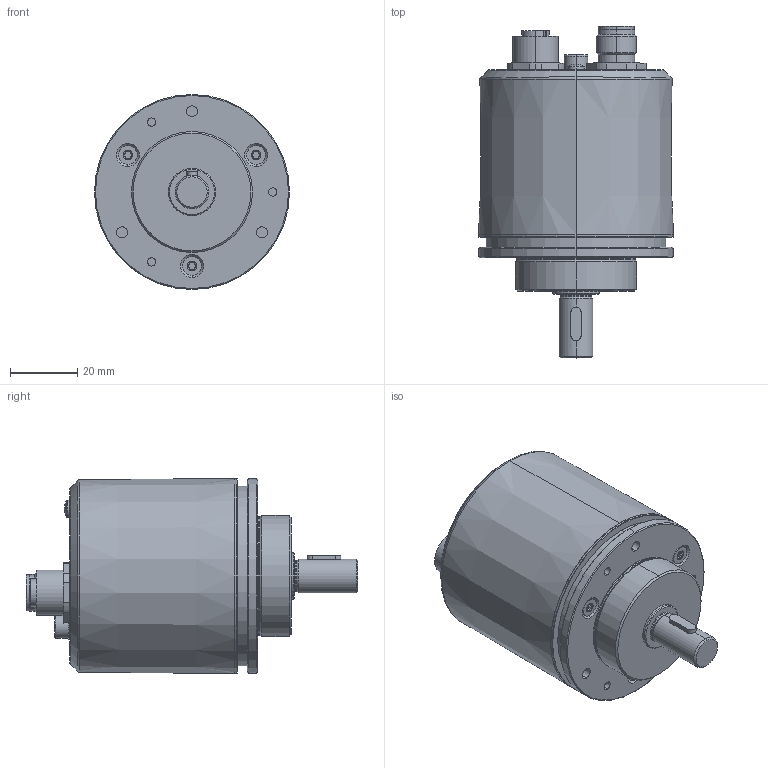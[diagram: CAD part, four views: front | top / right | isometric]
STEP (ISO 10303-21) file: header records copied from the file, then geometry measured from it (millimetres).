
FILE_DESCRIPTION (( 'STEP AP203' ), '1' );
FILE_NAME ('CAD_STP_400_0125.STEP', '2024-06-13T10:00:02', ( '' ), ( '' ), 'SwSTEP 2.0', 'SolidWorks 2022', '' );
FILE_SCHEMA (( 'CONFIG_CONTROL_DESIGN' ));
Length unit declared in the file: millimetre
Products named in the file (1): CAD_STP_400_0125
Bounding box: 58 x 98.7 x 58 mm (x, y, z)
Volume: 158026.1 mm3; surface area: 19839.7 mm2
Topology: 1 solids, 1 shells, 278 faces, 666 edges, 419 vertices
Faces by surface type: cylinder 127, plane 80, cone 57, torus 12, sphere 2
Entity records: 8438 total; most frequent: CARTESIAN_POINT 1774, DIRECTION 1455, ORIENTED_EDGE 1332, EDGE_CURVE 666, AXIS2_PLACEMENT_3D 580, VERTEX_POINT 419, EDGE_LOOP 307, CIRCLE 301
